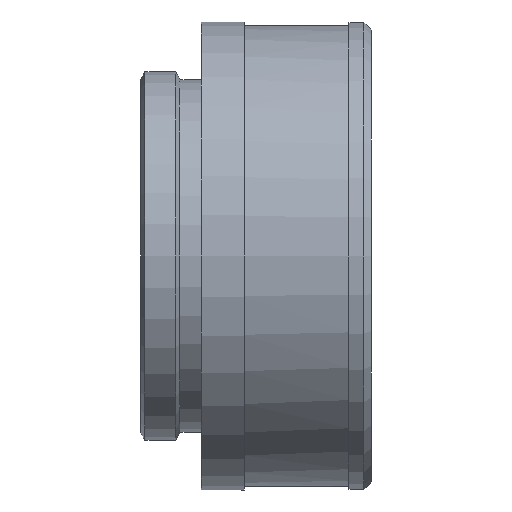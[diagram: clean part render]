
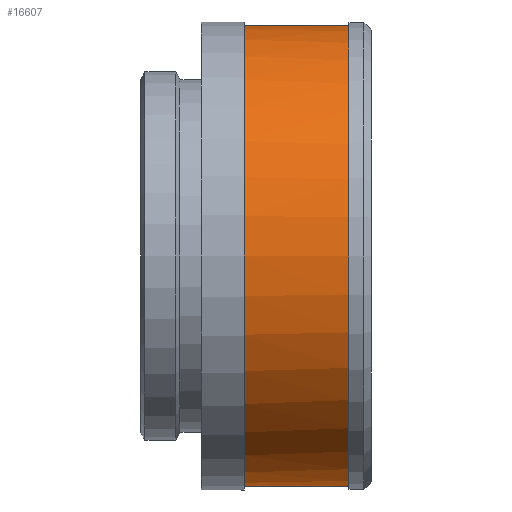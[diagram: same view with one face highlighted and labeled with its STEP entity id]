
A CAD part, left-side view. The second image highlights one B-rep face of the part: STEP entity #16607.
In plain terms, the highlighted cylindrical face has radius 15.621 mm (diameter 31.242 mm), a partial arc.
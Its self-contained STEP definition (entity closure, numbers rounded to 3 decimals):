
#1281 = EDGE_LOOP ( 'NONE', ( #3256, #20626, #17468, #19830, #22514, #11055 ) ) ;
#2497 = DIRECTION ( 'NONE',  ( 0., 0., 1. ) ) ;
#2605 = VERTEX_POINT ( 'NONE', #23418 ) ;
#3056 = FACE_OUTER_BOUND ( 'NONE', #1281, .T. ) ;
#3084 = LINE ( 'NONE', #12060, #16450 ) ;
#3103 = CARTESIAN_POINT ( 'NONE',  ( 0., -3.464, 0. ) ) ;
#3256 = ORIENTED_EDGE ( 'NONE', *, *, #14270, .F. ) ;
#3513 = DIRECTION ( 'NONE',  ( 0., 1., 0. ) ) ;
#5394 = CARTESIAN_POINT ( 'NONE',  ( 0., -3.464, 0. ) ) ;
#6069 = DIRECTION ( 'NONE',  ( 0., 0., -1. ) ) ;
#6718 = DIRECTION ( 'NONE',  ( 0., 0., 1. ) ) ;
#7599 = DIRECTION ( 'NONE',  ( 0., 0., 1. ) ) ;
#8307 = EDGE_CURVE ( 'NONE', #16388, #23536, #23020, .T. ) ;
#8788 = CARTESIAN_POINT ( 'NONE',  ( 0., 0., 0. ) ) ;
#8818 = EDGE_CURVE ( 'NONE', #18198, #23536, #24565, .T. ) ;
#8994 = CARTESIAN_POINT ( 'NONE',  ( 0., 3.648, -15.621 ) ) ;
#9888 = CARTESIAN_POINT ( 'NONE',  ( 0., 0., 15.621 ) ) ;
#10459 = AXIS2_PLACEMENT_3D ( 'NONE', #24253, #17920, #6069 ) ;
#10740 = CARTESIAN_POINT ( 'NONE',  ( 0., -3.464, 15.621 ) ) ;
#11055 = ORIENTED_EDGE ( 'NONE', *, *, #8818, .F. ) ;
#12060 = CARTESIAN_POINT ( 'NONE',  ( 0., 0., -15.621 ) ) ;
#13045 = AXIS2_PLACEMENT_3D ( 'NONE', #3103, #24897, #2497 ) ;
#14270 = EDGE_CURVE ( 'NONE', #2605, #18198, #3084, .T. ) ;
#14806 = CARTESIAN_POINT ( 'NONE',  ( -0.762, -3.464, -15.602 ) ) ;
#14938 = AXIS2_PLACEMENT_3D ( 'NONE', #5394, #17169, #17340 ) ;
#15542 = CIRCLE ( 'NONE', #14938, 15.621 ) ;
#16036 = DIRECTION ( 'NONE',  ( 0., 1., 0. ) ) ;
#16388 = VERTEX_POINT ( 'NONE', #10740 ) ;
#16411 = DIRECTION ( 'NONE',  ( 0., 1., 0. ) ) ;
#16450 = VECTOR ( 'NONE', #16036, 1000. ) ;
#16607 = ADVANCED_FACE ( 'NONE', ( #3056 ), #22650, .T. ) ;
#16893 = EDGE_CURVE ( 'NONE', #20002, #16388, #15542, .T. ) ;
#17049 = AXIS2_PLACEMENT_3D ( 'NONE', #25205, #3513, #7599 ) ;
#17169 = DIRECTION ( 'NONE',  ( 0., 1., 0. ) ) ;
#17340 = DIRECTION ( 'NONE',  ( 0., 0., -1. ) ) ;
#17468 = ORIENTED_EDGE ( 'NONE', *, *, #21213, .T. ) ;
#17920 = DIRECTION ( 'NONE',  ( 0., 1., 0. ) ) ;
#18198 = VERTEX_POINT ( 'NONE', #8994 ) ;
#18284 = CIRCLE ( 'NONE', #10459, 15.621 ) ;
#19169 = EDGE_CURVE ( 'NONE', #2605, #22231, #18284, .T. ) ;
#19830 = ORIENTED_EDGE ( 'NONE', *, *, #16893, .T. ) ;
#20002 = VERTEX_POINT ( 'NONE', #21833 ) ;
#20626 = ORIENTED_EDGE ( 'NONE', *, *, #19169, .T. ) ;
#21213 = EDGE_CURVE ( 'NONE', #22231, #20002, #24494, .T. ) ;
#21217 = AXIS2_PLACEMENT_3D ( 'NONE', #8788, #16411, #6718 ) ;
#21449 = VECTOR ( 'NONE', #25409, 1000. ) ;
#21833 = CARTESIAN_POINT ( 'NONE',  ( -0.762, -3.464, 15.602 ) ) ;
#22231 = VERTEX_POINT ( 'NONE', #14806 ) ;
#22410 = CARTESIAN_POINT ( 'NONE',  ( 0., 3.648, 15.621 ) ) ;
#22514 = ORIENTED_EDGE ( 'NONE', *, *, #8307, .T. ) ;
#22650 = CYLINDRICAL_SURFACE ( 'NONE', #21217, 15.621 ) ;
#23020 = LINE ( 'NONE', #9888, #21449 ) ;
#23418 = CARTESIAN_POINT ( 'NONE',  ( 0., -3.464, -15.621 ) ) ;
#23536 = VERTEX_POINT ( 'NONE', #22410 ) ;
#24253 = CARTESIAN_POINT ( 'NONE',  ( 0., -3.464, 0. ) ) ;
#24494 = CIRCLE ( 'NONE', #13045, 15.621 ) ;
#24565 = CIRCLE ( 'NONE', #17049, 15.621 ) ;
#24897 = DIRECTION ( 'NONE',  ( 0., 1., 0. ) ) ;
#25205 = CARTESIAN_POINT ( 'NONE',  ( 0., 3.648, 0. ) ) ;
#25409 = DIRECTION ( 'NONE',  ( 0., 1., 0. ) ) ;
